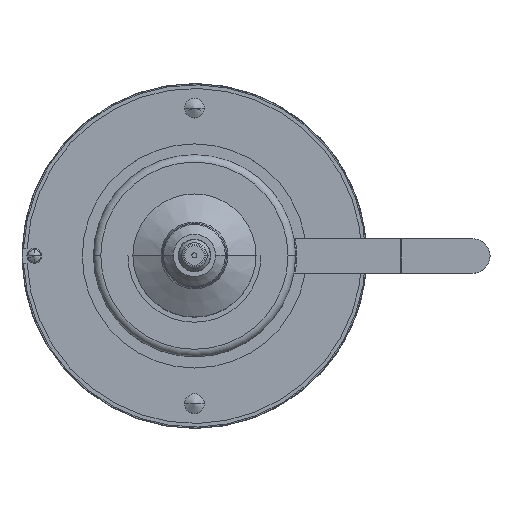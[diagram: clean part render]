
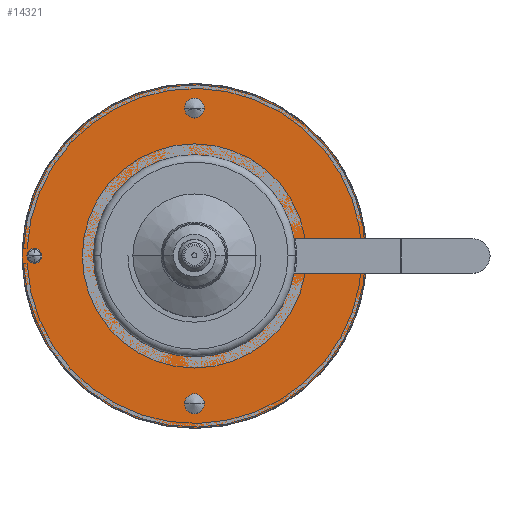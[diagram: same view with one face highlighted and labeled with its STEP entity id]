
A CAD part, top view. The second image highlights one B-rep face of the part: STEP entity #14321.
In plain terms, the highlighted planar face has unit normal (0, 0, 1).
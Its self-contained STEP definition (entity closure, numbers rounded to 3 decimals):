
#1467 = CARTESIAN_POINT ( 'NONE',  ( 40.398, -7., 32. ) ) ;
#2455 = CARTESIAN_POINT ( 'NONE',  ( 0., -60., 32. ) ) ;
#2456 = DIRECTION ( 'NONE',  ( 0., 0., 1. ) ) ;
#2457 = DIRECTION ( 'NONE',  ( -1., 0., 0. ) ) ;
#2458 = CARTESIAN_POINT ( 'NONE',  ( 0., 0., 32. ) ) ;
#2459 = DIRECTION ( 'NONE',  ( 0., 0., 1. ) ) ;
#2460 = DIRECTION ( 'NONE',  ( 0., 1., 0. ) ) ;
#2461 = CARTESIAN_POINT ( 'NONE',  ( 0., -7., 32. ) ) ;
#2462 = DIRECTION ( 'NONE',  ( 1., 0., 0. ) ) ;
#2465 = CARTESIAN_POINT ( 'NONE',  ( 0., 0., 32. ) ) ;
#2466 = DIRECTION ( 'NONE',  ( 0., 0., -1. ) ) ;
#2467 = DIRECTION ( 'NONE',  ( -1., 0., 0. ) ) ;
#2468 = CARTESIAN_POINT ( 'NONE',  ( -65., 0., 32. ) ) ;
#2469 = DIRECTION ( 'NONE',  ( 0., 0., 1. ) ) ;
#2470 = DIRECTION ( 'NONE',  ( 1., 0., 0. ) ) ;
#2471 = CARTESIAN_POINT ( 'NONE',  ( 0., 0., 32. ) ) ;
#2472 = DIRECTION ( 'NONE',  ( 0., 0., 1. ) ) ;
#2473 = DIRECTION ( 'NONE',  ( 0., 1., 0. ) ) ;
#2476 = CARTESIAN_POINT ( 'NONE',  ( 0., 60., 32. ) ) ;
#2477 = DIRECTION ( 'NONE',  ( 0., 0., -1. ) ) ;
#2478 = DIRECTION ( 'NONE',  ( -1., 0., 0. ) ) ;
#2479 = CARTESIAN_POINT ( 'NONE',  ( 0., 7., 32. ) ) ;
#2480 = DIRECTION ( 'NONE',  ( -1., 0., 0. ) ) ;
#2483 = CARTESIAN_POINT ( 'NONE',  ( 0., 0., 32. ) ) ;
#2484 = DIRECTION ( 'NONE',  ( 0., 0., 1. ) ) ;
#2485 = DIRECTION ( 'NONE',  ( 0., 1., 0. ) ) ;
#2493 = CARTESIAN_POINT ( 'NONE',  ( 0., 0., 32. ) ) ;
#2494 = DIRECTION ( 'NONE',  ( 0., 0., -1. ) ) ;
#2495 = DIRECTION ( 'NONE',  ( -1., 0., 0. ) ) ;
#2533 = CARTESIAN_POINT ( 'NONE',  ( -65., 0., 32. ) ) ;
#2534 = DIRECTION ( 'NONE',  ( 0., 0., 1. ) ) ;
#2535 = DIRECTION ( 'NONE',  ( 1., 0., 0. ) ) ;
#2545 = CARTESIAN_POINT ( 'NONE',  ( 0., 60., 32. ) ) ;
#2546 = DIRECTION ( 'NONE',  ( 0., 0., -1. ) ) ;
#2547 = DIRECTION ( 'NONE',  ( -1., 0., 0. ) ) ;
#2568 = CARTESIAN_POINT ( 'NONE',  ( 0., -60., 32. ) ) ;
#2569 = DIRECTION ( 'NONE',  ( 0., 0., 1. ) ) ;
#2570 = DIRECTION ( 'NONE',  ( -1., 0., 0. ) ) ;
#3130 = AXIS2_PLACEMENT_3D ( 'NONE', #6882, #6985, #7082 ) ;
#6867 = PLANE ( 'NONE',  #3130 ) ;
#6882 = CARTESIAN_POINT ( 'NONE',  ( 0., 25., 32. ) ) ;
#6985 = DIRECTION ( 'NONE',  ( 0., 0., 1. ) ) ;
#7082 = DIRECTION ( 'NONE',  ( 0., 1., 0. ) ) ;
#9924 = CIRCLE ( 'NONE', #19434, 4. ) ;
#9925 = LINE ( 'NONE', #2461, #9927 ) ;
#9926 = CIRCLE ( 'NONE', #19435, 70. ) ;
#9927 = VECTOR ( 'NONE', #2462, 1000. ) ;
#9930 = CIRCLE ( 'NONE', #19436, 41. ) ;
#9931 = CIRCLE ( 'NONE', #19437, 3. ) ;
#9933 = CIRCLE ( 'NONE', #19438, 70. ) ;
#9935 = LINE ( 'NONE', #2479, #9937 ) ;
#9936 = CIRCLE ( 'NONE', #19439, 4. ) ;
#9937 = VECTOR ( 'NONE', #2480, 1000. ) ;
#9941 = CIRCLE ( 'NONE', #19440, 70. ) ;
#9947 = CIRCLE ( 'NONE', #19442, 41. ) ;
#9967 = CIRCLE ( 'NONE', #19452, 3. ) ;
#9975 = CIRCLE ( 'NONE', #19454, 4. ) ;
#9992 = CIRCLE ( 'NONE', #19457, 4. ) ;
#10381 = VERTEX_POINT ( 'NONE', #1467 ) ;
#10592 = VERTEX_POINT ( 'NONE', #20685 ) ;
#10675 = VERTEX_POINT ( 'NONE', #20609 ) ;
#10708 = VERTEX_POINT ( 'NONE', #20861 ) ;
#10767 = VERTEX_POINT ( 'NONE', #20632 ) ;
#10869 = VERTEX_POINT ( 'NONE', #20459 ) ;
#10873 = VERTEX_POINT ( 'NONE', #20445 ) ;
#10936 = VERTEX_POINT ( 'NONE', #20912 ) ;
#10947 = VERTEX_POINT ( 'NONE', #20889 ) ;
#10963 = VERTEX_POINT ( 'NONE', #20492 ) ;
#11030 = VERTEX_POINT ( 'NONE', #21103 ) ;
#11080 = VERTEX_POINT ( 'NONE', #21054 ) ;
#11203 = VERTEX_POINT ( 'NONE', #21202 ) ;
#11353 = ORIENTED_EDGE ( 'NONE', *, *, #19901, .F. ) ;
#11400 = EDGE_LOOP ( 'NONE', ( #11611, #11451, #11712, #11457, #11798, #11643, #11620 ) ) ;
#11438 = EDGE_LOOP ( 'NONE', ( #11577, #11537 ) ) ;
#11451 = ORIENTED_EDGE ( 'NONE', *, *, #19902, .T. ) ;
#11457 = ORIENTED_EDGE ( 'NONE', *, *, #19897, .T. ) ;
#11537 = ORIENTED_EDGE ( 'NONE', *, *, #19904, .T. ) ;
#11577 = ORIENTED_EDGE ( 'NONE', *, *, #19931, .T. ) ;
#11611 = ORIENTED_EDGE ( 'NONE', *, *, #19905, .F. ) ;
#11613 = ORIENTED_EDGE ( 'NONE', *, *, #19941, .F. ) ;
#11620 = ORIENTED_EDGE ( 'NONE', *, *, #19911, .T. ) ;
#11643 = ORIENTED_EDGE ( 'NONE', *, *, #19900, .T. ) ;
#11661 = EDGE_LOOP ( 'NONE', ( #11792, #11353 ) ) ;
#11695 = ORIENTED_EDGE ( 'NONE', *, *, #19896, .F. ) ;
#11712 = ORIENTED_EDGE ( 'NONE', *, *, #19907, .T. ) ;
#11720 = EDGE_LOOP ( 'NONE', ( #11695, #11613 ) ) ;
#11792 = ORIENTED_EDGE ( 'NONE', *, *, #19926, .F. ) ;
#11798 = ORIENTED_EDGE ( 'NONE', *, *, #19898, .F. ) ;
#14321 = ADVANCED_FACE ( 'NONE', ( #21616, #21617, #21618, #21619 ), #6867, .T. ) ;
#19434 = AXIS2_PLACEMENT_3D ( 'NONE', #2455, #2456, #2457 ) ;
#19435 = AXIS2_PLACEMENT_3D ( 'NONE', #2458, #2459, #2460 ) ;
#19436 = AXIS2_PLACEMENT_3D ( 'NONE', #2465, #2466, #2467 ) ;
#19437 = AXIS2_PLACEMENT_3D ( 'NONE', #2468, #2469, #2470 ) ;
#19438 = AXIS2_PLACEMENT_3D ( 'NONE', #2471, #2472, #2473 ) ;
#19439 = AXIS2_PLACEMENT_3D ( 'NONE', #2476, #2477, #2478 ) ;
#19440 = AXIS2_PLACEMENT_3D ( 'NONE', #2483, #2484, #2485 ) ;
#19442 = AXIS2_PLACEMENT_3D ( 'NONE', #2493, #2494, #2495 ) ;
#19452 = AXIS2_PLACEMENT_3D ( 'NONE', #2533, #2534, #2535 ) ;
#19454 = AXIS2_PLACEMENT_3D ( 'NONE', #2545, #2546, #2547 ) ;
#19457 = AXIS2_PLACEMENT_3D ( 'NONE', #2568, #2569, #2570 ) ;
#19896 = EDGE_CURVE ( 'NONE', #10592, #11030, #9924, .T. ) ;
#19897 = EDGE_CURVE ( 'NONE', #10708, #11203, #9926, .T. ) ;
#19898 = EDGE_CURVE ( 'NONE', #10381, #11203, #9925, .T. ) ;
#19900 = EDGE_CURVE ( 'NONE', #10381, #10947, #9930, .T. ) ;
#19901 = EDGE_CURVE ( 'NONE', #10873, #10936, #9931, .T. ) ;
#19902 = EDGE_CURVE ( 'NONE', #10869, #10963, #9933, .T. ) ;
#19904 = EDGE_CURVE ( 'NONE', #11080, #10767, #9936, .T. ) ;
#19905 = EDGE_CURVE ( 'NONE', #10869, #10675, #9935, .T. ) ;
#19907 = EDGE_CURVE ( 'NONE', #10963, #10708, #9941, .T. ) ;
#19911 = EDGE_CURVE ( 'NONE', #10947, #10675, #9947, .T. ) ;
#19926 = EDGE_CURVE ( 'NONE', #10936, #10873, #9967, .T. ) ;
#19931 = EDGE_CURVE ( 'NONE', #10767, #11080, #9975, .T. ) ;
#19941 = EDGE_CURVE ( 'NONE', #11030, #10592, #9992, .T. ) ;
#20445 = CARTESIAN_POINT ( 'NONE',  ( -68., 0., 32. ) ) ;
#20459 = CARTESIAN_POINT ( 'NONE',  ( 69.649, 7., 32. ) ) ;
#20492 = CARTESIAN_POINT ( 'NONE',  ( 0., 70., 32. ) ) ;
#20609 = CARTESIAN_POINT ( 'NONE',  ( 40.398, 7., 32. ) ) ;
#20632 = CARTESIAN_POINT ( 'NONE',  ( -4., 60., 32. ) ) ;
#20685 = CARTESIAN_POINT ( 'NONE',  ( -4., -60., 32. ) ) ;
#20861 = CARTESIAN_POINT ( 'NONE',  ( 0., -70., 32. ) ) ;
#20889 = CARTESIAN_POINT ( 'NONE',  ( -41., 0., 32. ) ) ;
#20912 = CARTESIAN_POINT ( 'NONE',  ( -62., 0., 32. ) ) ;
#21054 = CARTESIAN_POINT ( 'NONE',  ( 4., 60., 32. ) ) ;
#21103 = CARTESIAN_POINT ( 'NONE',  ( 4., -60., 32. ) ) ;
#21202 = CARTESIAN_POINT ( 'NONE',  ( 69.649, -7., 32. ) ) ;
#21616 = FACE_BOUND ( 'NONE', #11438, .T. ) ;
#21617 = FACE_OUTER_BOUND ( 'NONE', #11400, .T. ) ;
#21618 = FACE_BOUND ( 'NONE', #11661, .T. ) ;
#21619 = FACE_BOUND ( 'NONE', #11720, .T. ) ;
